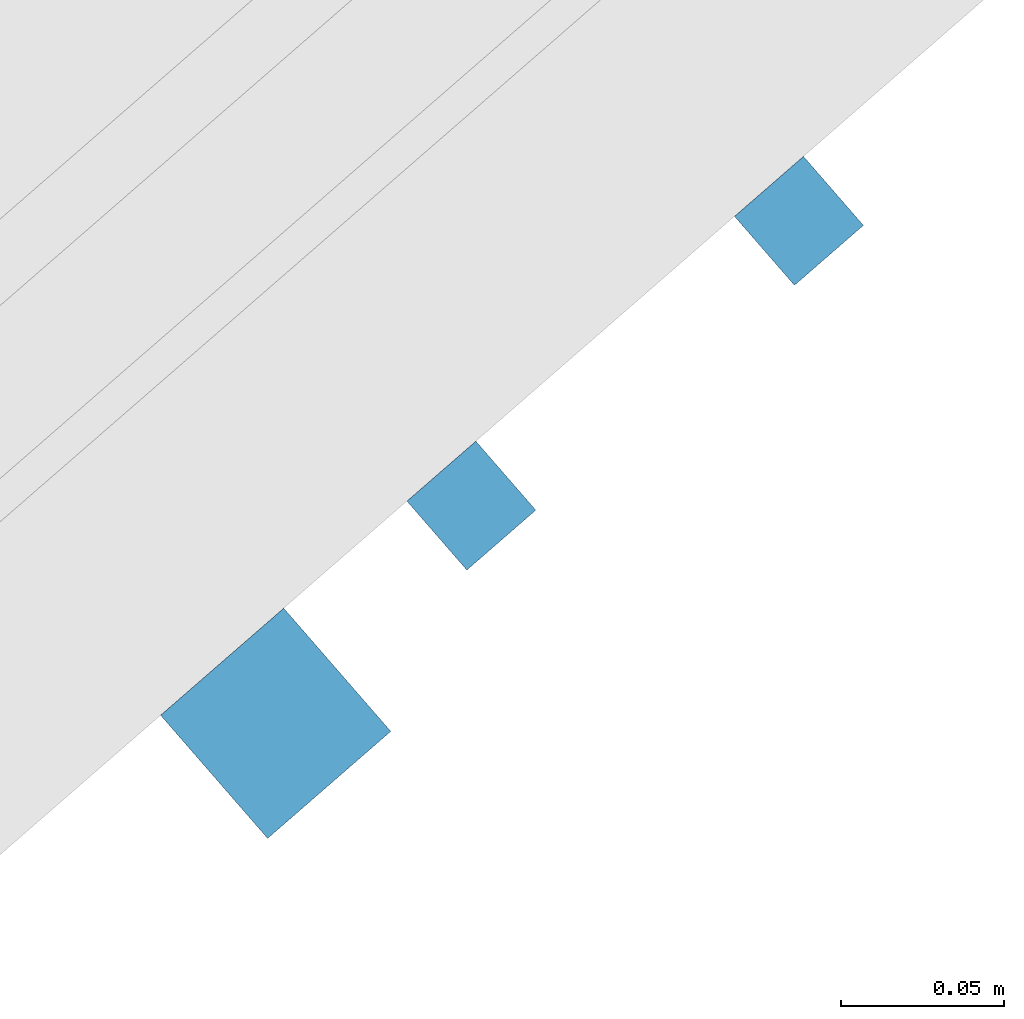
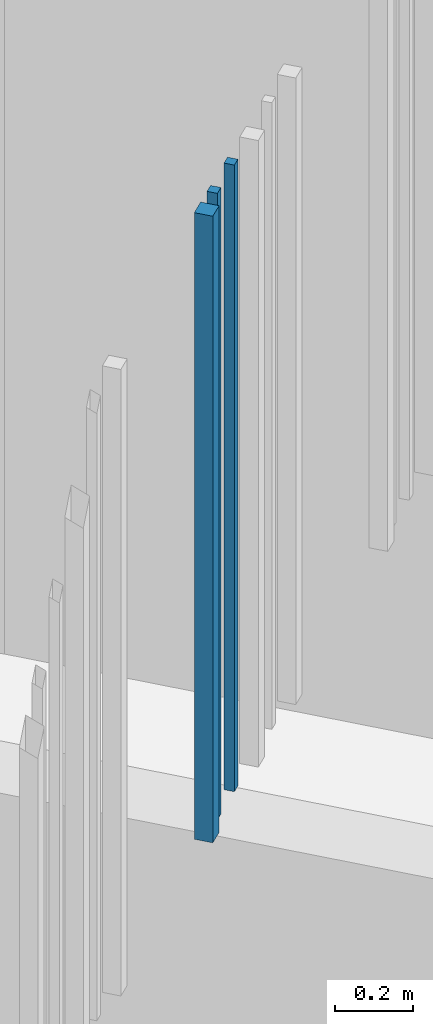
# One storey, part 66 of 124: 3 walls.
"""IFC2X3 building model written with IfcOpenShell, lengths in millimetres."""

from ifc_helpers import new_model, entity, si_unit, converted_unit, derived_unit, money_unit, direction, frame, origin_with_axes, place, context, subcontext, project, spatial, faceted_brep, material, type_object, element, save


model = new_model("IFC2X3")

# Units and contexts
model_context = context("Model", 3, precision=1e-05, world=origin_with_axes(), true_north=direction((0.0, 1.0)))
body_context = subcontext(model_context, "Body", "Model", "MODEL_VIEW")
ifc_project = project(units=[si_unit("LENGTHUNIT", "METRE", prefix="MILLI"), si_unit("AREAUNIT", "SQUARE_METRE"), si_unit("VOLUMEUNIT", "CUBIC_METRE"), converted_unit("PLANEANGLEUNIT", "DEGREE", entity("IfcPlaneAngleMeasure", 0.0174532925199), si_unit("PLANEANGLEUNIT", "RADIAN"), dimensions=[0, 0, 0, 0, 0, 0, 0]), si_unit("SOLIDANGLEUNIT", "STERADIAN"), money_unit("EUR"), converted_unit("TIMEUNIT", "Year", entity("IfcTimeMeasure", 31556926.0), si_unit("TIMEUNIT", "SECOND"), dimensions=[0, 0, 1, 0, 0, 0, 0]), si_unit("MASSUNIT", "GRAM", prefix="KILO"), si_unit("THERMODYNAMICTEMPERATUREUNIT", "DEGREE_CELSIUS"), si_unit("LUMINOUSINTENSITYUNIT", "LUMEN"), si_unit("ENERGYUNIT", "JOULE", prefix="MEGA"), derived_unit("THERMALCONDUCTANCEUNIT", [(si_unit("POWERUNIT", "WATT"), 1), (si_unit("LENGTHUNIT", "METRE"), -1), (si_unit("THERMODYNAMICTEMPERATUREUNIT", "KELVIN"), -1)]), derived_unit("SPECIFICHEATCAPACITYUNIT", [(si_unit("ENERGYUNIT", "JOULE"), 1), (si_unit("MASSUNIT", "GRAM", prefix="KILO"), -1), (si_unit("THERMODYNAMICTEMPERATUREUNIT", "KELVIN"), -1)]), derived_unit("MASSDENSITYUNIT", [(si_unit("MASSUNIT", "GRAM", prefix="KILO"), 1), (si_unit("VOLUMEUNIT", "CUBIC_METRE"), -1)])], contexts=[model_context])

# Site, building, storey
site_placement = place(None, origin_with_axes())
site = spatial("IfcSite", under=ifc_project, at=site_placement, Name="Site", CompositionType="ELEMENT")
building_placement = place(site_placement, origin_with_axes())
building = spatial("IfcBuilding", under=site, at=building_placement, Name="Building", CompositionType="ELEMENT")
storey_placement = place(building_placement, frame((0.0, 0.0, -1615.0), z_axis=(0.0, 0.0, 1.0), x_axis=(1.0, 0.0, 0.0)))
storey = spatial("IfcBuildingStorey", under=building, at=storey_placement, Name="0  korrus", CompositionType="ELEMENT", Elevation=-1615.0)

# Walls
ifc_material = material(Name="Site specified")
wall_type = type_object("IfcWallType", Name="Puitfassaadi ribistik", PredefinedType="NOTDEFINED")
wall_placement = place(storey_placement, frame((159214.88904, 83034.0081603, 9530.0), z_axis=(0.0, 0.0, 1.0), x_axis=(-0.754709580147, -0.656059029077, 0.0)))
element("IfcWall", 1, at=wall_placement, inside=storey, type_object=wall_type, material=ifc_material, Name="Site specified", context=body_context, shape_type="Brep", body=[
    faceted_brep([(25.0, 25.0, 1950.0), (25.0, 25.0, 0.0), (-25.0, 25.0, 0.0), (-25.0, 25.0, 1950.0), (25.0, -25.0, 1950.0), (25.0, -25.0, 0.0), (-25.0, -25.0, 0.0), (-25.0, -25.0, 1950.0)], [[[0, 1, 2, 3]], [[4, 5, 1, 0]], [[2, 1, 5, 6]], [[3, 2, 6, 7]], [[4, 0, 3, 7]], [[7, 6, 5, 4]]]),
])
for number, where, z_axis, x_axis, name in (
    (2, (159375.22031, 83187.9571495, 9530.0), (0.0, 0.0, 1.0), (-0.754709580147, -0.656059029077, 0.0), "Site specified"),
    (3, (159274.843936, 83100.7012992, 9530.0), (0.0, 0.0, 1.0), (-0.754709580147, -0.656059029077, 0.0), "Site specified"),
):
    element("IfcWall", number, at=place(storey_placement, frame(where, z_axis=z_axis, x_axis=x_axis)), inside=storey, type_object=wall_type, material=ifc_material, Name=name, context=body_context, shape_type="Brep", body=[
        faceted_brep([(14.0, 14.0, 1950.0), (14.0, 14.0, 0.0), (-14.0, 14.0, 0.0), (-14.0, 14.0, 1950.0), (14.0, -14.0, 1950.0), (14.0, -14.0, 0.0), (-14.0, -14.0, 0.0), (-14.0, -14.0, 1950.0)], [[[0, 1, 2, 3]], [[4, 5, 1, 0]], [[2, 1, 5, 6]], [[3, 2, 6, 7]], [[4, 0, 3, 7]], [[7, 6, 5, 4]]]),
    ])

save(model, "model.ifc")
